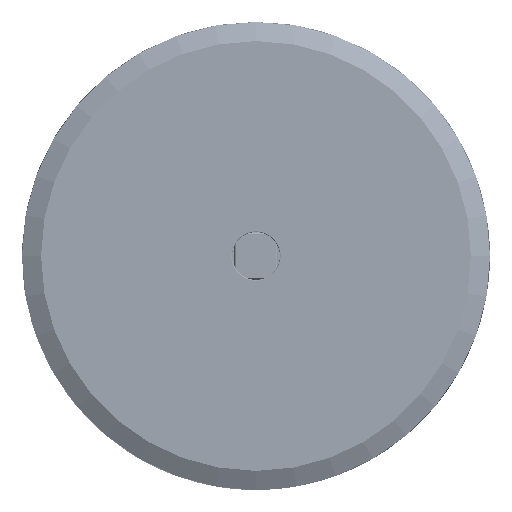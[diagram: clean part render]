
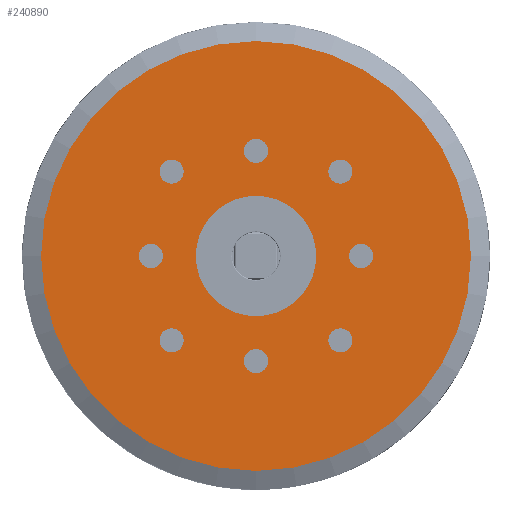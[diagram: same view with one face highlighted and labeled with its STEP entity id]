
A CAD part, left-side view. The second image highlights one B-rep face of the part: STEP entity #240890.
In plain terms, the highlighted planar face has unit normal (-1, 0, 0).
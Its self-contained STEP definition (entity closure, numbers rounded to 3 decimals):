
#70711=FACE_BOUND('',#85289,.T.);
#70712=FACE_BOUND('',#85290,.T.);
#70713=FACE_BOUND('',#85291,.T.);
#70714=FACE_BOUND('',#85292,.T.);
#70715=FACE_BOUND('',#85293,.T.);
#70716=FACE_BOUND('',#85294,.T.);
#70717=FACE_BOUND('',#85295,.T.);
#70718=FACE_BOUND('',#85296,.T.);
#70719=FACE_BOUND('',#85297,.T.);
#71872=FACE_OUTER_BOUND('',#85288,.T.);
#85288=EDGE_LOOP('',(#160712));
#85289=EDGE_LOOP('',(#160713));
#85290=EDGE_LOOP('',(#160714));
#85291=EDGE_LOOP('',(#160715));
#85292=EDGE_LOOP('',(#160716));
#85293=EDGE_LOOP('',(#160717));
#85294=EDGE_LOOP('',(#160718));
#85295=EDGE_LOOP('',(#160719));
#85296=EDGE_LOOP('',(#160720));
#85297=EDGE_LOOP('',(#160721));
#99863=CIRCLE('',#255167,22.5);
#99864=CIRCLE('',#255168,1.265);
#99865=CIRCLE('',#255169,1.265);
#99866=CIRCLE('',#255170,1.265);
#99867=CIRCLE('',#255171,1.265);
#99868=CIRCLE('',#255172,1.265);
#99869=CIRCLE('',#255173,1.265);
#99870=CIRCLE('',#255174,1.265);
#99871=CIRCLE('',#255175,1.265);
#99872=CIRCLE('',#255176,6.3);
#101508=VERTEX_POINT('',#322971);
#101509=VERTEX_POINT('',#322973);
#101510=VERTEX_POINT('',#322975);
#101511=VERTEX_POINT('',#322977);
#101512=VERTEX_POINT('',#322979);
#101513=VERTEX_POINT('',#322981);
#101514=VERTEX_POINT('',#322983);
#101515=VERTEX_POINT('',#322985);
#101516=VERTEX_POINT('',#322987);
#101517=VERTEX_POINT('',#322989);
#125027=EDGE_CURVE('',#101508,#101508,#99863,.T.);
#125028=EDGE_CURVE('',#101509,#101509,#99864,.T.);
#125029=EDGE_CURVE('',#101510,#101510,#99865,.T.);
#125030=EDGE_CURVE('',#101511,#101511,#99866,.T.);
#125031=EDGE_CURVE('',#101512,#101512,#99867,.T.);
#125032=EDGE_CURVE('',#101513,#101513,#99868,.T.);
#125033=EDGE_CURVE('',#101514,#101514,#99869,.T.);
#125034=EDGE_CURVE('',#101515,#101515,#99870,.T.);
#125035=EDGE_CURVE('',#101516,#101516,#99871,.T.);
#125036=EDGE_CURVE('',#101517,#101517,#99872,.T.);
#160712=ORIENTED_EDGE('',*,*,#125027,.T.);
#160713=ORIENTED_EDGE('',*,*,#125028,.T.);
#160714=ORIENTED_EDGE('',*,*,#125029,.T.);
#160715=ORIENTED_EDGE('',*,*,#125030,.T.);
#160716=ORIENTED_EDGE('',*,*,#125031,.T.);
#160717=ORIENTED_EDGE('',*,*,#125032,.T.);
#160718=ORIENTED_EDGE('',*,*,#125033,.T.);
#160719=ORIENTED_EDGE('',*,*,#125034,.T.);
#160720=ORIENTED_EDGE('',*,*,#125035,.T.);
#160721=ORIENTED_EDGE('',*,*,#125036,.F.);
#232065=PLANE('',#255166);
#240890=ADVANCED_FACE('',(#71872,#70711,#70712,#70713,#70714,#70715,#70716,
#70717,#70718,#70719),#232065,.F.);
#255166=AXIS2_PLACEMENT_3D('',#322970,#268880,#268881);
#255167=AXIS2_PLACEMENT_3D('',#322972,#268882,#268883);
#255168=AXIS2_PLACEMENT_3D('',#322974,#268884,#268885);
#255169=AXIS2_PLACEMENT_3D('',#322976,#268886,#268887);
#255170=AXIS2_PLACEMENT_3D('',#322978,#268888,#268889);
#255171=AXIS2_PLACEMENT_3D('',#322980,#268890,#268891);
#255172=AXIS2_PLACEMENT_3D('',#322982,#268892,#268893);
#255173=AXIS2_PLACEMENT_3D('',#322984,#268894,#268895);
#255174=AXIS2_PLACEMENT_3D('',#322986,#268896,#268897);
#255175=AXIS2_PLACEMENT_3D('',#322988,#268898,#268899);
#255176=AXIS2_PLACEMENT_3D('',#322990,#268900,#268901);
#268880=DIRECTION('center_axis',(1.,0.,0.));
#268881=DIRECTION('ref_axis',(0.,0.,-1.));
#268882=DIRECTION('center_axis',(-1.,0.,0.));
#268883=DIRECTION('ref_axis',(0.,0.,1.));
#268884=DIRECTION('center_axis',(1.,0.,0.));
#268885=DIRECTION('ref_axis',(0.,-1.,0.));
#268886=DIRECTION('center_axis',(1.,0.,0.));
#268887=DIRECTION('ref_axis',(0.,-1.,0.));
#268888=DIRECTION('center_axis',(1.,0.,0.));
#268889=DIRECTION('ref_axis',(0.,-1.,0.));
#268890=DIRECTION('center_axis',(1.,0.,0.));
#268891=DIRECTION('ref_axis',(0.,-1.,0.));
#268892=DIRECTION('center_axis',(1.,0.,0.));
#268893=DIRECTION('ref_axis',(0.,-1.,0.));
#268894=DIRECTION('center_axis',(1.,0.,0.));
#268895=DIRECTION('ref_axis',(0.,-1.,0.));
#268896=DIRECTION('center_axis',(1.,0.,0.));
#268897=DIRECTION('ref_axis',(0.,-1.,0.));
#268898=DIRECTION('center_axis',(1.,0.,0.));
#268899=DIRECTION('ref_axis',(0.,-1.,0.));
#268900=DIRECTION('center_axis',(-1.,0.,0.));
#268901=DIRECTION('ref_axis',(0.,0.,1.));
#322970=CARTESIAN_POINT('Origin',(0.,6.3,0.));
#322971=CARTESIAN_POINT('',(0.,0.,
22.5));
#322972=CARTESIAN_POINT('Origin',(0.,0.,0.));
#322973=CARTESIAN_POINT('',(0.,10.103,-8.839));
#322974=CARTESIAN_POINT('Origin',(0.,8.839,-8.839));
#322975=CARTESIAN_POINT('',(0.,-7.574,-8.839));
#322976=CARTESIAN_POINT('Origin',(0.,-8.839,-8.839));
#322977=CARTESIAN_POINT('',(0.,-7.574,8.839));
#322978=CARTESIAN_POINT('Origin',(0.,-8.839,8.839));
#322979=CARTESIAN_POINT('',(0.,10.103,8.839));
#322980=CARTESIAN_POINT('Origin',(0.,8.839,8.839));
#322981=CARTESIAN_POINT('',(0.,1.265,11.));
#322982=CARTESIAN_POINT('Origin',(0.,0.,11.));
#322983=CARTESIAN_POINT('',(0.,-9.736,0.));
#322984=CARTESIAN_POINT('Origin',(0.,-11.,0.));
#322985=CARTESIAN_POINT('',(0.,1.265,-11.));
#322986=CARTESIAN_POINT('Origin',(0.,0.,-11.));
#322987=CARTESIAN_POINT('',(0.,12.265,0.));
#322988=CARTESIAN_POINT('Origin',(0.,11.,0.));
#322989=CARTESIAN_POINT('',(0.,0.,-6.3));
#322990=CARTESIAN_POINT('Origin',(0.,0.,0.));
